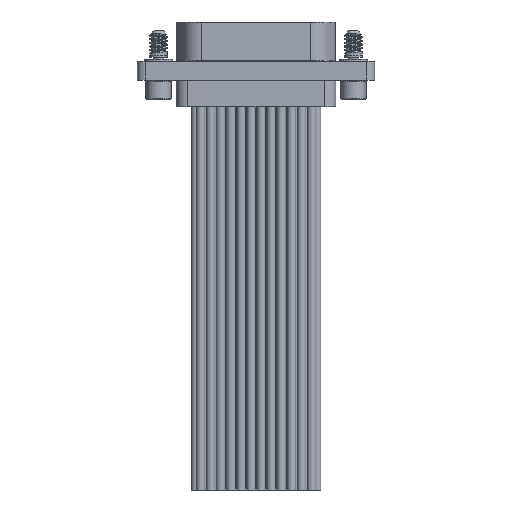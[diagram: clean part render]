
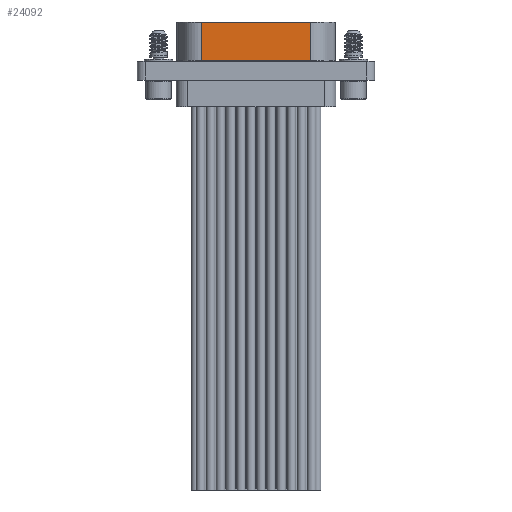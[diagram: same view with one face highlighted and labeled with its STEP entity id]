
A CAD part, front view. The second image highlights one B-rep face of the part: STEP entity #24092.
In plain terms, the highlighted planar face has unit normal (0, -1, 0).
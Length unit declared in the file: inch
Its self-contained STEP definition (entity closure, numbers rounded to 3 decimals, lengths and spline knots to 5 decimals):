
#2222 = VERTEX_POINT ( 'NONE', #24211 ) ;
#3183 = ORIENTED_EDGE ( 'NONE', *, *, #31947, .T. ) ;
#3515 = EDGE_CURVE ( 'NONE', #12203, #26018, #10270, .T. ) ;
#4582 = DIRECTION ( 'NONE',  ( 0., 0., -1. ) ) ;
#4985 = AXIS2_PLACEMENT_3D ( 'NONE', #26297, #14950, #18092 ) ;
#5916 = LINE ( 'NONE', #16783, #25091 ) ;
#6817 = EDGE_CURVE ( 'NONE', #26018, #27305, #5916, .T. ) ;
#7524 = CARTESIAN_POINT ( 'NONE',  ( 0.5475, -0.1176, 0.235 ) ) ;
#8295 = VECTOR ( 'NONE', #35128, 39.37008 ) ;
#9738 = CARTESIAN_POINT ( 'NONE',  ( 0.27056, -0.1176, 0.235 ) ) ;
#9918 = CARTESIAN_POINT ( 'NONE',  ( 0.27056, -0.1176, 0.045 ) ) ;
#10270 = LINE ( 'NONE', #30065, #25116 ) ;
#10439 = ORIENTED_EDGE ( 'NONE', *, *, #23435, .F. ) ;
#12203 = VERTEX_POINT ( 'NONE', #24947 ) ;
#14950 = DIRECTION ( 'NONE',  ( 0., -1., 0. ) ) ;
#16783 = CARTESIAN_POINT ( 'NONE',  ( 0.5475, -0.1176, 0.045 ) ) ;
#17594 = ORIENTED_EDGE ( 'NONE', *, *, #3515, .T. ) ;
#18092 = DIRECTION ( 'NONE',  ( 0., 0., 1. ) ) ;
#18794 = ORIENTED_EDGE ( 'NONE', *, *, #6817, .T. ) ;
#23435 = EDGE_CURVE ( 'NONE', #2222, #27305, #29351, .T. ) ;
#24092 = ADVANCED_FACE ( 'NONE', ( #33909 ), #33221, .T. ) ;
#24211 = CARTESIAN_POINT ( 'NONE',  ( 0.27056, -0.1176, 0.235 ) ) ;
#24947 = CARTESIAN_POINT ( 'NONE',  ( -0.27056, -0.1176, 0.235 ) ) ;
#25091 = VECTOR ( 'NONE', #31353, 39.37008 ) ;
#25116 = VECTOR ( 'NONE', #4582, 39.37008 ) ;
#25435 = CARTESIAN_POINT ( 'NONE',  ( -0.27056, -0.1176, 0.045 ) ) ;
#26018 = VERTEX_POINT ( 'NONE', #25435 ) ;
#26297 = CARTESIAN_POINT ( 'NONE',  ( 0.5475, -0.1176, 0.235 ) ) ;
#27305 = VERTEX_POINT ( 'NONE', #9918 ) ;
#29351 = LINE ( 'NONE', #9738, #31374 ) ;
#30065 = CARTESIAN_POINT ( 'NONE',  ( -0.27056, -0.1176, 0.235 ) ) ;
#30410 = LINE ( 'NONE', #7524, #8295 ) ;
#31353 = DIRECTION ( 'NONE',  ( 1., 0., 0. ) ) ;
#31374 = VECTOR ( 'NONE', #34583, 39.37008 ) ;
#31947 = EDGE_CURVE ( 'NONE', #2222, #12203, #30410, .T. ) ;
#33221 = PLANE ( 'NONE',  #4985 ) ;
#33909 = FACE_OUTER_BOUND ( 'NONE', #35075, .T. ) ;
#34583 = DIRECTION ( 'NONE',  ( 0., 0., -1. ) ) ;
#35075 = EDGE_LOOP ( 'NONE', ( #17594, #18794, #10439, #3183 ) ) ;
#35128 = DIRECTION ( 'NONE',  ( -1., 0., 0. ) ) ;
